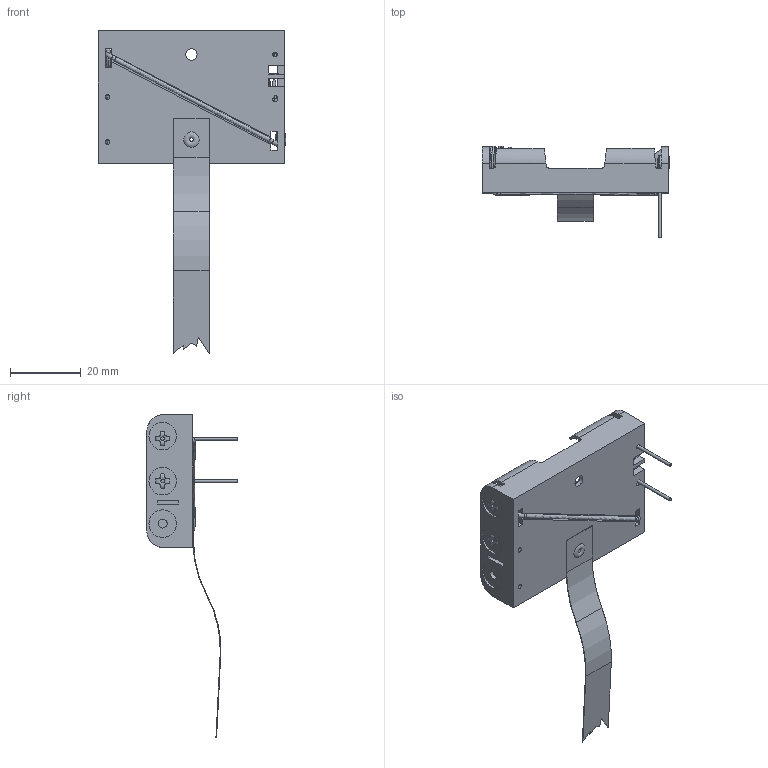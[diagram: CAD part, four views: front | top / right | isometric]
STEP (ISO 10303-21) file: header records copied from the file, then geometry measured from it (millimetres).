
FILE_DESCRIPTION (( 'STEP AP214' ), '1' );
FILE_NAME ('2479RB.STEP', '2021-12-17T14:20:37', ( '' ), ( '' ), 'SwSTEP 2.0', 'SolidWorks 2013', '' );
FILE_SCHEMA (( 'AUTOMOTIVE_DESIGN' ));
Length unit declared in the file: inch
Products named in the file (1): 2479RB
Bounding box: 52.85 x 25.92 x 91.07 mm (x, y, z)
Volume: 6908 mm3; surface area: 11853.3 mm2
Topology: 14 solids, 14 shells, 981 faces, 2581 edges, 1697 vertices
Faces by surface type: plane 705, bspline 164, cylinder 89, torus 21, cone 2
Full cylindrical faces by diameter (mm): 0.813 x2, 1.024 x6, 1.27 x4, 1.321 x4, 1.727 x2, 1.778 x5, 2.286 x1, 2.489 x7, 3.2 x2, 7.772 x6
Entity records: 54073 total; most frequent: CARTESIAN_POINT 18335, ORIENTED_EDGE 4970, DIRECTION 3947, EDGE_CURVE 2485, VECTOR 1883, LINE 1883, VERTEX_POINT 1675, EDGE_LOOP 1170
